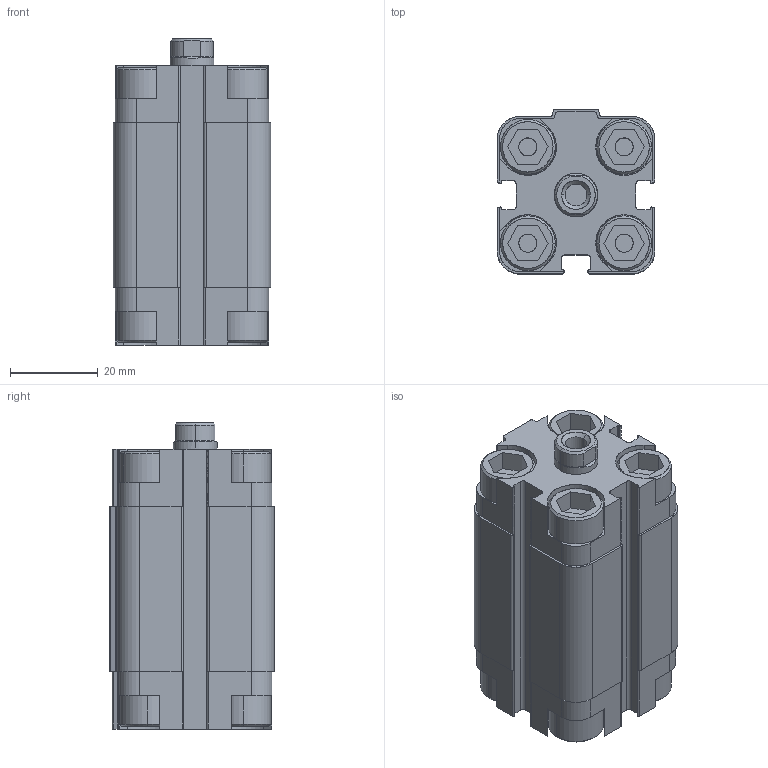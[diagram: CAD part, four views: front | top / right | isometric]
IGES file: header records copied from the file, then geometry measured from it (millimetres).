
Start section: SolidWorks IGES file using analytic representation for surfaces
Global section: file name: K:\Disegni Esecutivi\Cilindri\2_DISEGNI_cilindri_in_produzione\20_CILINDRO_ISO_21287\seconda versione cilindro 21287\2_CIL20\CPLX_20\3d_pieni\WB020_PIENO\WB0200025A.igs; native system: SolidWorks 2012; preprocessor: SolidWorks 2012; author: Cad01; date: 130420.113659; units: millimetre
Bounding box: 36 x 37.5 x 69.95 mm (x, y, z)
Surface area: 18600.4 mm2 (no closed solid volume)
Topology: 0 solids, 0 shells, 320 faces, 3673 edges, 3673 vertices
Faces by surface type: bspline 185, revolution 135
